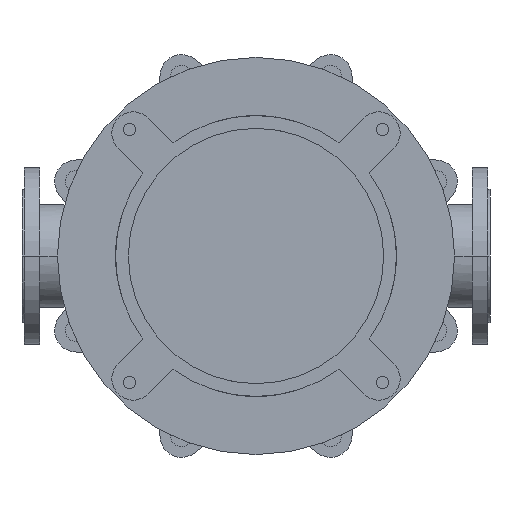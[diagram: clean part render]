
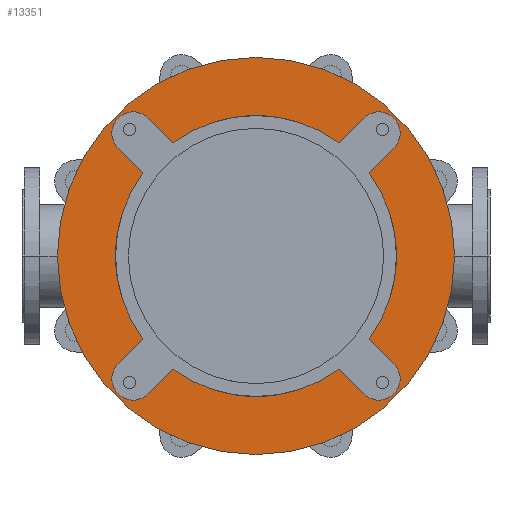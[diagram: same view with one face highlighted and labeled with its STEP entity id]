
A CAD part, front view. The second image highlights one B-rep face of the part: STEP entity #13351.
In plain terms, the highlighted planar face has unit normal (0, -1, 0).
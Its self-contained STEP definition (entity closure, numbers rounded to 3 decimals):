
#3001=CARTESIAN_POINT('',(0.,-25.,0.));
#3002=DIRECTION('',(0.,1.,0.));
#3003=DIRECTION('',(0.592,0.,-0.806));
#3004=AXIS2_PLACEMENT_3D('',#3001,#3002,#3003);
#3019=CARTESIAN_POINT('',(0.,-25.,0.));
#3020=DIRECTION('',(0.,1.,0.));
#3021=DIRECTION('',(0.806,0.,0.592));
#3022=AXIS2_PLACEMENT_3D('',#3019,#3020,#3021);
#3046=CARTESIAN_POINT('',(0.,-25.,0.));
#3047=DIRECTION('',(0.,1.,0.));
#3048=DIRECTION('',(-0.806,0.,-0.592));
#3049=AXIS2_PLACEMENT_3D('',#3046,#3047,#3048);
#3055=CARTESIAN_POINT('',(0.,-25.,0.));
#3056=DIRECTION('',(0.,1.,0.));
#3057=DIRECTION('',(-0.592,0.,0.806));
#3058=AXIS2_PLACEMENT_3D('',#3055,#3056,#3057);
#3233=CARTESIAN_POINT('',(0.,-25.,0.));
#3234=DIRECTION('',(0.,-1.,0.));
#3235=DIRECTION('',(-1.,0.,0.));
#3236=AXIS2_PLACEMENT_3D('',#3233,#3234,#3235);
#3238=CARTESIAN_POINT('',(0.,-25.,0.));
#3239=DIRECTION('',(0.,1.,0.));
#3240=DIRECTION('',(-1.,0.,0.));
#3241=AXIS2_PLACEMENT_3D('',#3238,#3239,#3240);
#3243=CARTESIAN_POINT('',(-173.241,-25.,173.241));
#3244=DIRECTION('',(0.,-1.,0.));
#3245=DIRECTION('',(0.707,0.,0.707));
#3246=AXIS2_PLACEMENT_3D('',#3243,#3244,#3245);
#3248=DIRECTION('',(0.707,0.,-0.707));
#3249=VECTOR('',#3248,49.286);
#3250=CARTESIAN_POINT('',(-194.454,-25.,152.028));
#3251=LINE('',#3250,#3249);
#3252=DIRECTION('',(-0.707,0.,-0.707));
#3253=VECTOR('',#3252,49.286);
#3254=CARTESIAN_POINT('',(-159.604,-25.,-117.178));
#3255=LINE('',#3254,#3253);
#3256=CARTESIAN_POINT('',(-173.241,-25.,-173.241));
#3257=DIRECTION('',(0.,-1.,0.));
#3258=DIRECTION('',(-0.707,0.,0.707));
#3259=AXIS2_PLACEMENT_3D('',#3256,#3257,#3258);
#3261=DIRECTION('',(0.707,0.,0.707));
#3262=VECTOR('',#3261,49.286);
#3263=CARTESIAN_POINT('',(-152.028,-25.,-194.454));
#3264=LINE('',#3263,#3262);
#3265=DIRECTION('',(0.707,0.,-0.707));
#3266=VECTOR('',#3265,49.286);
#3267=CARTESIAN_POINT('',(117.178,-25.,-159.604));
#3268=LINE('',#3267,#3266);
#3269=CARTESIAN_POINT('',(173.241,-25.,-173.241));
#3270=DIRECTION('',(0.,-1.,0.));
#3271=DIRECTION('',(-0.707,0.,-0.707));
#3272=AXIS2_PLACEMENT_3D('',#3269,#3270,#3271);
#3274=DIRECTION('',(-0.707,0.,0.707));
#3275=VECTOR('',#3274,49.286);
#3276=CARTESIAN_POINT('',(194.454,-25.,-152.028));
#3277=LINE('',#3276,#3275);
#3278=DIRECTION('',(0.707,0.,0.707));
#3279=VECTOR('',#3278,49.286);
#3280=CARTESIAN_POINT('',(159.604,-25.,117.178));
#3281=LINE('',#3280,#3279);
#3282=CARTESIAN_POINT('',(173.241,-25.,173.241));
#3283=DIRECTION('',(0.,-1.,0.));
#3284=DIRECTION('',(0.707,0.,-0.707));
#3285=AXIS2_PLACEMENT_3D('',#3282,#3283,#3284);
#3287=DIRECTION('',(-0.707,0.,-0.707));
#3288=VECTOR('',#3287,49.286);
#3289=CARTESIAN_POINT('',(152.028,-25.,194.454));
#3290=LINE('',#3289,#3288);
#3291=DIRECTION('',(-0.707,0.,0.707));
#3292=VECTOR('',#3291,49.286);
#3293=CARTESIAN_POINT('',(-117.178,-25.,159.604));
#3294=LINE('',#3293,#3292);
#8319=CARTESIAN_POINT('',(-280.,-25.,0.));
#8320=CARTESIAN_POINT('',(280.,-25.,0.));
#8321=VERTEX_POINT('',#8319);
#8322=VERTEX_POINT('',#8320);
#8343=CARTESIAN_POINT('',(-194.454,-25.,-152.028));
#8344=CARTESIAN_POINT('',(-152.028,-25.,-194.454));
#8345=VERTEX_POINT('',#8343);
#8346=VERTEX_POINT('',#8344);
#8347=CARTESIAN_POINT('',(-117.178,-25.,-159.604));
#8348=VERTEX_POINT('',#8347);
#8349=CARTESIAN_POINT('',(-159.604,-25.,-117.178));
#8350=VERTEX_POINT('',#8349);
#8359=CARTESIAN_POINT('',(152.028,-25.,-194.454));
#8360=CARTESIAN_POINT('',(194.454,-25.,-152.028));
#8361=VERTEX_POINT('',#8359);
#8362=VERTEX_POINT('',#8360);
#8363=CARTESIAN_POINT('',(159.604,-25.,-117.178));
#8364=VERTEX_POINT('',#8363);
#8365=CARTESIAN_POINT('',(117.178,-25.,-159.604));
#8366=VERTEX_POINT('',#8365);
#8375=CARTESIAN_POINT('',(194.454,-25.,152.028));
#8376=CARTESIAN_POINT('',(152.028,-25.,194.454));
#8377=VERTEX_POINT('',#8375);
#8378=VERTEX_POINT('',#8376);
#8379=CARTESIAN_POINT('',(117.178,-25.,159.604));
#8380=VERTEX_POINT('',#8379);
#8381=CARTESIAN_POINT('',(159.604,-25.,117.178));
#8382=VERTEX_POINT('',#8381);
#8391=CARTESIAN_POINT('',(-152.028,-25.,194.454));
#8392=CARTESIAN_POINT('',(-194.454,-25.,152.028));
#8393=VERTEX_POINT('',#8391);
#8394=VERTEX_POINT('',#8392);
#8395=CARTESIAN_POINT('',(-159.604,-25.,117.178));
#8396=VERTEX_POINT('',#8395);
#8397=CARTESIAN_POINT('',(-117.178,-25.,159.604));
#8398=VERTEX_POINT('',#8397);
#13311=CARTESIAN_POINT('',(0.,-25.,0.));
#13312=DIRECTION('',(0.,-1.,0.));
#13313=DIRECTION('',(-1.,0.,0.));
#13314=AXIS2_PLACEMENT_3D('',#13311,#13312,#13313);
#13315=PLANE('',#13314);
#13317=ORIENTED_EDGE('',*,*,#13316,.F.);
#13319=ORIENTED_EDGE('',*,*,#13318,.T.);
#13320=EDGE_LOOP('',(#13317,#13319));
#13321=FACE_OUTER_BOUND('',#13320,.F.);
#13323=ORIENTED_EDGE('',*,*,#13322,.T.);
#13325=ORIENTED_EDGE('',*,*,#13324,.T.);
#13326=ORIENTED_EDGE('',*,*,#13264,.F.);
#13328=ORIENTED_EDGE('',*,*,#13327,.T.);
#13330=ORIENTED_EDGE('',*,*,#13329,.T.);
#13332=ORIENTED_EDGE('',*,*,#13331,.T.);
#13333=ORIENTED_EDGE('',*,*,#13217,.F.);
#13334=ORIENTED_EDGE('',*,*,#13301,.T.);
#13336=ORIENTED_EDGE('',*,*,#13335,.T.);
#13338=ORIENTED_EDGE('',*,*,#13337,.T.);
#13339=ORIENTED_EDGE('',*,*,#13238,.F.);
#13341=ORIENTED_EDGE('',*,*,#13340,.T.);
#13343=ORIENTED_EDGE('',*,*,#13342,.T.);
#13345=ORIENTED_EDGE('',*,*,#13344,.T.);
#13346=ORIENTED_EDGE('',*,*,#13282,.F.);
#13348=ORIENTED_EDGE('',*,*,#13347,.T.);
#13349=EDGE_LOOP('',(#13323,#13325,#13326,#13328,#13330,#13332,#13333,#13334,
#13336,#13338,#13339,#13341,#13343,#13345,#13346,#13348));
#13350=FACE_BOUND('',#13349,.F.);
#13351=ADVANCED_FACE('',(#13321,#13350),#13315,.T.);
#3005=CIRCLE('',#3004,198.);
#3023=CIRCLE('',#3022,198.);
#3050=CIRCLE('',#3049,198.);
#3059=CIRCLE('',#3058,198.);
#3237=CIRCLE('',#3236,280.);
#3242=CIRCLE('',#3241,280.);
#3247=CIRCLE('',#3246,30.);
#3260=CIRCLE('',#3259,30.);
#3273=CIRCLE('',#3272,30.);
#3286=CIRCLE('',#3285,30.);
#13217=EDGE_CURVE('',#8366,#8348,#3005,.T.);
#13238=EDGE_CURVE('',#8382,#8364,#3023,.T.);
#13264=EDGE_CURVE('',#8350,#8396,#3050,.T.);
#13282=EDGE_CURVE('',#8398,#8380,#3059,.T.);
#13301=EDGE_CURVE('',#8366,#8361,#3268,.T.);
#13316=EDGE_CURVE('',#8321,#8322,#3237,.T.);
#13318=EDGE_CURVE('',#8321,#8322,#3242,.T.);
#13322=EDGE_CURVE('',#8393,#8394,#3247,.T.);
#13324=EDGE_CURVE('',#8394,#8396,#3251,.T.);
#13327=EDGE_CURVE('',#8350,#8345,#3255,.T.);
#13329=EDGE_CURVE('',#8345,#8346,#3260,.T.);
#13331=EDGE_CURVE('',#8346,#8348,#3264,.T.);
#13335=EDGE_CURVE('',#8361,#8362,#3273,.T.);
#13337=EDGE_CURVE('',#8362,#8364,#3277,.T.);
#13340=EDGE_CURVE('',#8382,#8377,#3281,.T.);
#13342=EDGE_CURVE('',#8377,#8378,#3286,.T.);
#13344=EDGE_CURVE('',#8378,#8380,#3290,.T.);
#13347=EDGE_CURVE('',#8398,#8393,#3294,.T.);
